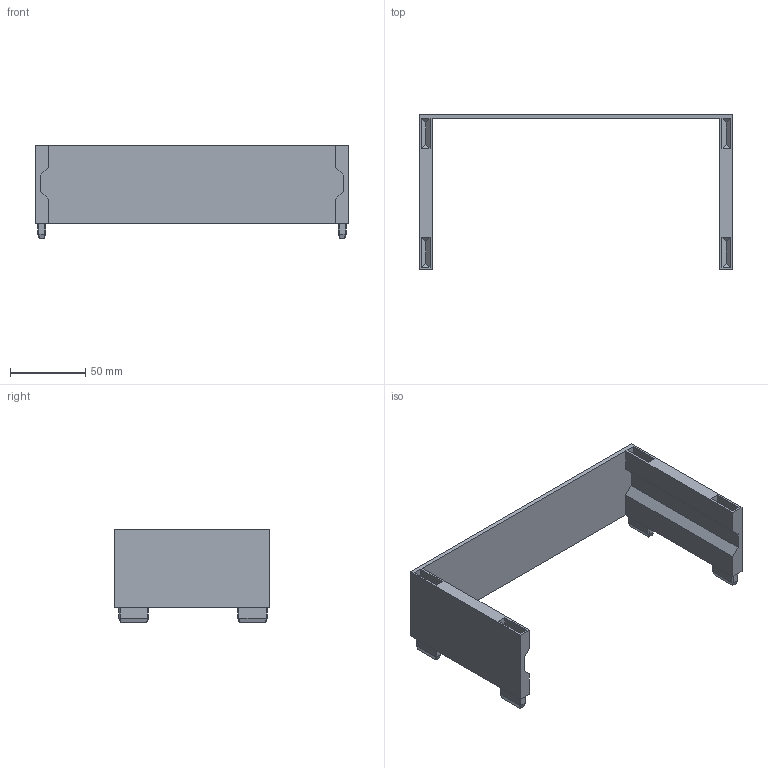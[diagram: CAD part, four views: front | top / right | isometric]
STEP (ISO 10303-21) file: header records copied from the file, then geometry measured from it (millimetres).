
FILE_DESCRIPTION(/* description */ (''),/* implementation_level */ '2;1');
FILE_NAME(/* name */ 'StackDrawerBox2-Side1.step',/* time_stamp */ '2024-06-27T18:44:52+02:00',/* author */ (''),/* organization */ (''),/* preprocessor_version */ 'ST-DEVELOPER v20',/* originating_system */ 'Autodesk Translation Framework v13.14.0.145',/* authorisation */ '');
FILE_SCHEMA (('AUTOMOTIVE_DESIGN { 1 0 10303 214 3 1 1 }'));
Length unit declared in the file: millimetre
Products named in the file (2): StackDrawerBox2-base2; Component2
Assembly tree (1 placements, depth 2):
  StackDrawerBox2-base2
    Component2
Bounding box: 208 x 103.3 x 62 mm (x, y, z)
Volume: 106070.8 mm3; surface area: 52280.7 mm2
Topology: 1 solids, 1 shells, 118 faces, 276 edges, 168 vertices
Faces by surface type: plane 118
Entity records: 3296 total; most frequent: CARTESIAN_POINT 565, ORIENTED_EDGE 552, DIRECTION 518, LINE 276, VECTOR 276, EDGE_CURVE 276, VERTEX_POINT 168, EDGE_LOOP 126
